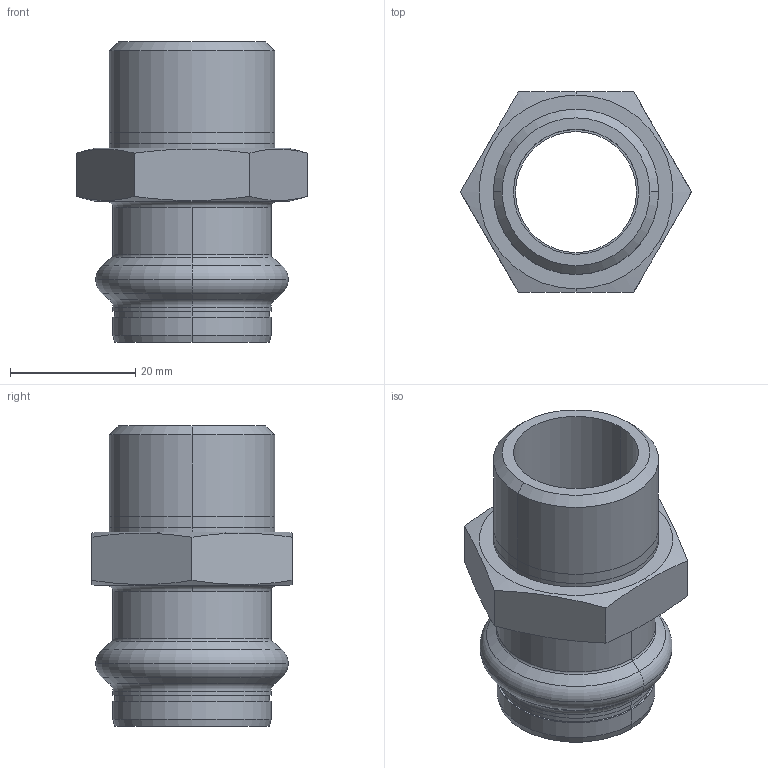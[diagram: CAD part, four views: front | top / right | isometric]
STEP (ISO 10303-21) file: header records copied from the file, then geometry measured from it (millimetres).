
FILE_DESCRIPTION(('CoCreate Modeling STEP Export'),'2;1');
FILE_NAME('8243GVW2234.stp','2013-03-05T10:34:42',(''),(''),'CoCreate Modeling STEP processor for AP214 (Solid Model)','CoCreate Modeling 17.00A 17-Jun-2010 (C) Parametric Technology GmbH','');
FILE_SCHEMA(('AUTOMOTIVE_DESIGN { 1 0 10303 214 1 1 1 1 }'));
Length unit declared in the file: millimetre
Products named in the file (1): 8243GVW2234
Bounding box: 36.95 x 32 x 48 mm (x, y, z)
Volume: 12389.8 mm3; surface area: 8725.9 mm2
Topology: 1 solids, 1 shells, 62 faces, 142 edges, 88 vertices
Faces by surface type: cylinder 22, cone 16, plane 14, torus 10
Entity records: 2210 total; most frequent: CARTESIAN_POINT 981, ORIENTED_EDGE 284, DIRECTION 198, EDGE_CURVE 142, VERTEX_POINT 88, AXIS2_PLACEMENT_3D 77, EDGE_LOOP 70, FACE_OUTER_BOUND 62
